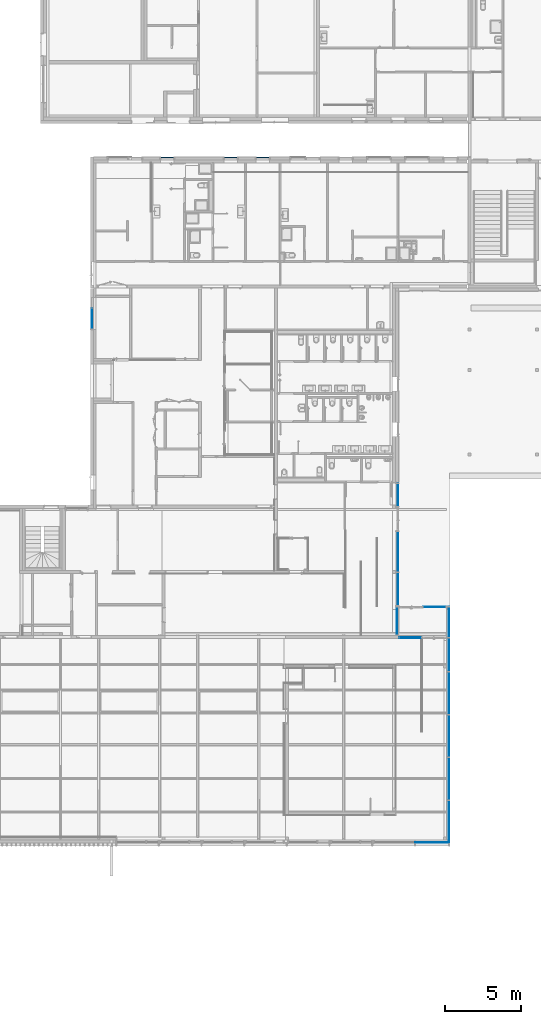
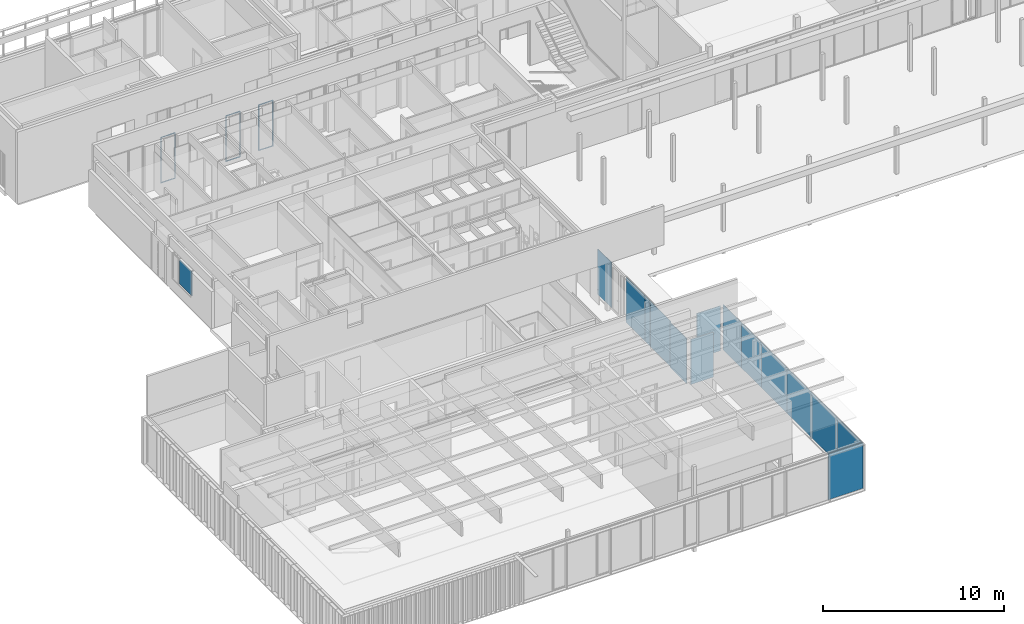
# One storey, part 60 of 240: 18 plates, 11 elements without a shape of their own.
"""IFC2X3 building model written with IfcOpenShell, lengths in centimetres."""

from ifc_helpers import new_model, entity, si_unit, converted_unit, derived_unit, direction, frame, origin, origin_2d_with_axis, place, context, subcontext, project, spatial, polyline, rectangle, outline, extrude, source, transform, mapped, material, layer, layer_set, layer_usage, type_object, type_shapes, element, aggregate, save


model = new_model("IFC2X3")

# Units and contexts
model_context = context("Model", 3, precision=0.001, world=origin(), true_north=direction((6.12303176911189e-17, 1.0)))
body_context = subcontext(model_context, "Body", "Model", "MODEL_VIEW")
ifc_project = project(units=[si_unit("LENGTHUNIT", "METRE", prefix="CENTI"), si_unit("AREAUNIT", "SQUARE_METRE"), si_unit("VOLUMEUNIT", "CUBIC_METRE"), converted_unit("PLANEANGLEUNIT", "DEGREE", entity("IfcRatioMeasure", 0.0174532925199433), si_unit("PLANEANGLEUNIT", "RADIAN"), dimensions=[0, 0, 0, 0, 0, 0, 0]), si_unit("MASSUNIT", "GRAM", prefix="KILO"), derived_unit("MASSDENSITYUNIT", [(si_unit("MASSUNIT", "GRAM", prefix="KILO"), 1), (si_unit("LENGTHUNIT", "METRE"), -3)]), si_unit("TIMEUNIT", "SECOND"), si_unit("FREQUENCYUNIT", "HERTZ"), si_unit("THERMODYNAMICTEMPERATUREUNIT", "DEGREE_CELSIUS"), derived_unit("THERMALTRANSMITTANCEUNIT", [(si_unit("MASSUNIT", "GRAM", prefix="KILO"), 1), (si_unit("THERMODYNAMICTEMPERATUREUNIT", "KELVIN"), -1), (si_unit("TIMEUNIT", "SECOND"), -3)]), derived_unit("VOLUMETRICFLOWRATEUNIT", [(si_unit("LENGTHUNIT", "METRE"), 3), (si_unit("TIMEUNIT", "SECOND"), -1)]), si_unit("ELECTRICCURRENTUNIT", "AMPERE"), si_unit("ELECTRICVOLTAGEUNIT", "VOLT"), si_unit("POWERUNIT", "WATT"), si_unit("FORCEUNIT", "NEWTON", prefix="KILO"), si_unit("ILLUMINANCEUNIT", "LUX"), si_unit("LUMINOUSFLUXUNIT", "LUMEN"), si_unit("LUMINOUSINTENSITYUNIT", "CANDELA"), derived_unit("USERDEFINED", [(si_unit("MASSUNIT", "GRAM", prefix="KILO"), -1), (si_unit("LENGTHUNIT", "METRE"), -2), (si_unit("TIMEUNIT", "SECOND"), 3), (si_unit("LUMINOUSFLUXUNIT", "LUMEN"), 1)]), derived_unit("LINEARVELOCITYUNIT", [(si_unit("LENGTHUNIT", "METRE"), 1), (si_unit("TIMEUNIT", "SECOND"), -1)]), si_unit("PRESSUREUNIT", "PASCAL"), derived_unit("USERDEFINED", [(si_unit("LENGTHUNIT", "METRE"), -2), (si_unit("MASSUNIT", "GRAM", prefix="KILO"), 1), (si_unit("TIMEUNIT", "SECOND"), -2)])], contexts=[model_context])

# Site, building, storey
site_placement = place(None, frame((-2781.94577612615, 7442.24238424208, 0.0)))
site = spatial("IfcSite", under=ifc_project, at=site_placement, Name="Default", CompositionType="ELEMENT")
building_placement = place(site_placement, origin())
building = spatial("IfcBuilding", under=site, at=building_placement, CompositionType="ELEMENT")
storey_placement = place(building_placement, origin())
storey = spatial("IfcBuildingStorey", under=building, at=storey_placement, Name="N00 - COO", CompositionType="ELEMENT", Elevation=0.0)

# Curtain wall, plate
curtain_wall_type_1 = type_object("IfcCurtainWallType", Name="Mur-rideau:07 - Mur rideau meneaux 180", PredefinedType="NOTDEFINED")
curtain_wall_1_placement = place(building_placement, origin())
curtain_wall_1 = element("IfcCurtainWall", 1, at=curtain_wall_1_placement, inside=storey, type_object=curtain_wall_type_1, Name="Mur-rideau:07 - Mur rideau meneaux 180", ObjectType="Mur-rideau:07 - Mur rideau meneaux 180")
ifc_material = material(Name="Verre")
ifc_layer = layer(ifc_material, 4.0)
ifc_layer_set = layer_set([ifc_layer], Name="Panneau système:Vitré")
ifc_layer_usage_1 = layer_usage(ifc_layer_set, "AXIS3", "POSITIVE", 0.0)
plate_type_1 = type_object("IfcPlateType", Name="Vitré", PredefinedType="CURTAIN_PANEL", material=ifc_layer_set)
shared_shape_1 = source(origin(), body_context, "Body", "SweptSolid", [
    extrude(rectangle(XDim=4.0, YDim=134.0, at=origin_2d_with_axis()), frame((0.0, 0.0, 0.0), z_axis=(0.0, 0.0, 1.0), x_axis=(0.0, 1.0, 0.0)), (0.0, 0.0, 1.0), 165.0),
])
type_shapes(plate_type_1, [shared_shape_1])
plate_1_placement = place(curtain_wall_1_placement, frame((-10892.6130476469, -2130.07903364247, 80.0), z_axis=(0.0, 0.0, 1.0), x_axis=(0.0, -1.0, 0.0)))
plate_1 = element("IfcPlate", 2, at=plate_1_placement, type_object=plate_type_1, material=ifc_layer_usage_1, Name="Panneau système:Vitré", ObjectType="Panneau système:Vitré", context=body_context, shape_type="MappedRepresentation", body=[
    mapped(shared_shape_1, transform((0.0, 0.0, 0.0), scale=1.0)),
])
aggregate(curtain_wall_1, [plate_1])

curtain_wall_type_2 = type_object("IfcCurtainWallType", PredefinedType="NOTDEFINED")
curtain_wall_2_placement = place(building_placement, origin())
curtain_wall_2 = element("IfcCurtainWall", 3, at=curtain_wall_2_placement, inside=storey, type_object=curtain_wall_type_2)
ifc_layer_usage_2 = layer_usage(ifc_layer_set, "AXIS3", "POSITIVE", 0.0)
plate_type_2 = type_object("IfcPlateType", Name="Vitré", PredefinedType="CURTAIN_PANEL", material=ifc_layer_set)
shared_shape_2 = source(origin(), body_context, "Body", "SweptSolid", [
    extrude(rectangle(XDim=4.0, YDim=143.499999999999, at=origin_2d_with_axis()), frame((0.0, 0.0, 0.0), z_axis=(0.0, 0.0, 1.0), x_axis=(0.0, 1.0, 0.0)), (0.0, 0.0, 1.0), 303.000000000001),
])
type_shapes(plate_type_2, [shared_shape_2])
plate_2_placement = place(curtain_wall_2_placement, frame((-8805.23738089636, -4220.50027342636, 5.0)))
plate_2 = element("IfcPlate", 4, at=plate_2_placement, type_object=plate_type_2, material=ifc_layer_usage_2, Name="Panneau système:Vitré", ObjectType="Panneau système:Vitré", context=body_context, shape_type="MappedRepresentation", body=[
    mapped(shared_shape_2, transform((0.0, 0.0, 0.0), scale=1.0)),
])
aggregate(curtain_wall_2, [plate_2])

curtain_wall_type_3 = type_object("IfcCurtainWallType", PredefinedType="NOTDEFINED")
curtain_wall_3_placement = place(building_placement, origin())
curtain_wall_3 = element("IfcCurtainWall", 5, at=curtain_wall_3_placement, inside=storey, type_object=curtain_wall_type_3)
ifc_layer_usage_3 = layer_usage(ifc_layer_set, "AXIS3", "POSITIVE", 0.0)
plate_type_3 = type_object("IfcPlateType", Name="Vitré", PredefinedType="CURTAIN_PANEL", material=ifc_layer_set)
shared_shape_3 = source(origin(), body_context, "Body", "SweptSolid", [
    extrude(rectangle(XDim=4.0, YDim=180.221239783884, at=origin_2d_with_axis()), frame((0.0, 0.0, 0.0), z_axis=(0.0, 0.0, 1.0), x_axis=(0.0, 1.0, 0.0)), (0.0, 0.0, 1.0), 303.0),
])
type_shapes(plate_type_3, [shared_shape_3])
plate_3_placement = place(curtain_wall_3_placement, frame((-8891.98738089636, -4110.38965353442, 5.0), z_axis=(0.0, 0.0, 1.0), x_axis=(0.0, 1.0, 0.0)))
plate_3 = element("IfcPlate", 6, at=plate_3_placement, type_object=plate_type_3, material=ifc_layer_usage_3, Name="Panneau système:Vitré", ObjectType="Panneau système:Vitré", context=body_context, shape_type="MappedRepresentation", body=[
    mapped(shared_shape_3, transform((0.0, 0.0, 0.0), scale=1.0)),
])
aggregate(curtain_wall_3, [plate_3])

curtain_wall_type_4 = type_object("IfcCurtainWallType", Name="Mur-rideau:07 - mur rideau trame 280 cm", PredefinedType="NOTDEFINED")
curtain_wall_4_placement = place(building_placement, origin())
curtain_wall_4 = element("IfcCurtainWall", 7, at=curtain_wall_4_placement, inside=storey, type_object=curtain_wall_type_4, Name="Mur-rideau:07 - mur rideau trame 280 cm", ObjectType="Mur-rideau:07 - mur rideau trame 280 cm")
ifc_layer_usage_4 = layer_usage(ifc_layer_set, "AXIS3", "POSITIVE", 0.0)
plate_type_4 = type_object("IfcPlateType", Name="Vitré", PredefinedType="CURTAIN_PANEL", material=ifc_layer_set)
shared_shape_4 = source(origin(), body_context, "Body", "SweptSolid", [
    extrude(rectangle(XDim=4.0, YDim=220.12936520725, at=origin_2d_with_axis()), frame((0.0, 0.0, 0.0), z_axis=(0.0, 0.0, 1.0), x_axis=(0.0, 1.0, 0.0)), (0.0, 0.0, 1.0), 311.27110145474),
])
type_shapes(plate_type_4, [shared_shape_4])
plate_4_placement = place(curtain_wall_4_placement, frame((-8664.75206350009, -5562.80173441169, 4.11874999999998)))
plate_4 = element("IfcPlate", 8, at=plate_4_placement, type_object=plate_type_4, material=ifc_layer_usage_4, Name="Panneau système:Vitré", ObjectType="Panneau système:Vitré", context=body_context, shape_type="MappedRepresentation", body=[
    mapped(shared_shape_4, transform((0.0, 0.0, 0.0), scale=1.0)),
])
aggregate(curtain_wall_4, [plate_4])

# Curtain wall, plates
curtain_wall_5_placement = place(building_placement, origin())
curtain_wall_5 = element("IfcCurtainWall", 9, at=curtain_wall_5_placement, inside=storey, type_object=curtain_wall_type_4, Name="Mur-rideau:07 - mur rideau trame 280 cm", ObjectType="Mur-rideau:07 - mur rideau trame 280 cm")
ifc_layer_usage_5 = layer_usage(ifc_layer_set, "AXIS3", "POSITIVE", 0.0)
plate_type_5 = type_object("IfcPlateType", Name="Vitré", PredefinedType="CURTAIN_PANEL", material=ifc_layer_set)
shared_shape_5 = source(origin(), body_context, "Body", "SweptSolid", [
    extrude(rectangle(XDim=4.0, YDim=279.131250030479, at=origin_2d_with_axis()), frame((0.0, 0.0, 0.0), z_axis=(0.0, 0.0, 1.0), x_axis=(0.0, 1.0, 0.0)), (0.0, 0.0, 1.0), 304.7625),
])
type_shapes(plate_type_5, [shared_shape_5])
plate_5_placement = place(curtain_wall_5_placement, frame((-8552.68738089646, -5425.23610939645, 4.11874999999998), z_axis=(0.0, 0.0, 1.0), x_axis=(0.0, 1.0, 0.0)))
plate_5 = element("IfcPlate", 10, at=plate_5_placement, type_object=plate_type_5, material=ifc_layer_usage_5, Name="Panneau système:Vitré", ObjectType="Panneau système:Vitré", context=body_context, shape_type="MappedRepresentation", body=[
    mapped(shared_shape_5, transform((0.0, 0.0, 0.0), scale=1.0)),
])
ifc_layer_usage_6 = layer_usage(ifc_layer_set, "AXIS3", "POSITIVE", 0.0)
plate_type_6 = type_object("IfcPlateType", Name="Vitré", PredefinedType="CURTAIN_PANEL", material=ifc_layer_set)
shared_shape_6 = source(origin(), body_context, "Body", "SweptSolid", [
    extrude(rectangle(XDim=4.0, YDim=278.2625, at=origin_2d_with_axis()), frame((0.0, 0.0, 0.0), z_axis=(0.0, 0.0, 1.0), x_axis=(0.0, 1.0, 0.0)), (0.0, 0.0, 1.0), 304.7625),
])
type_shapes(plate_type_6, [shared_shape_6])
plate_6_placement = place(curtain_wall_5_placement, frame((-8552.68738089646, -5144.80173438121, 4.11874999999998), z_axis=(0.0, 0.0, 1.0), x_axis=(0.0, 1.0, 0.0)))
plate_6 = element("IfcPlate", 11, at=plate_6_placement, type_object=plate_type_6, material=ifc_layer_usage_6, Name="Panneau système:Vitré", ObjectType="Panneau système:Vitré", context=body_context, shape_type="MappedRepresentation", body=[
    mapped(shared_shape_6, transform((0.0, 0.0, 0.0), scale=1.0)),
])
ifc_layer_usage_7 = layer_usage(ifc_layer_set, "AXIS3", "POSITIVE", 0.0)
plate_7_placement = place(curtain_wall_5_placement, frame((-8552.68738089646, -4864.80173438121, 4.11874999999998), z_axis=(0.0, 0.0, 1.0), x_axis=(0.0, 1.0, 0.0)))
plate_7 = element("IfcPlate", 12, at=plate_7_placement, type_object=plate_type_6, material=ifc_layer_usage_7, Name="Panneau système:Vitré", ObjectType="Panneau système:Vitré", context=body_context, shape_type="MappedRepresentation", body=[
    mapped(shared_shape_6, transform((0.0, 0.0, 0.0), scale=1.0)),
])
ifc_layer_usage_8 = layer_usage(ifc_layer_set, "AXIS3", "POSITIVE", 0.0)
plate_8_placement = place(curtain_wall_5_placement, frame((-8552.68738089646, -4584.80173438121, 4.11874999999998), z_axis=(0.0, 0.0, 1.0), x_axis=(0.0, 1.0, 0.0)))
plate_8 = element("IfcPlate", 13, at=plate_8_placement, type_object=plate_type_6, material=ifc_layer_usage_8, Name="Panneau système:Vitré", ObjectType="Panneau système:Vitré", context=body_context, shape_type="MappedRepresentation", body=[
    mapped(shared_shape_6, transform((0.0, 0.0, 0.0), scale=1.0)),
])
ifc_layer_usage_9 = layer_usage(ifc_layer_set, "AXIS3", "POSITIVE", 0.0)
plate_type_7 = type_object("IfcPlateType", Name="Vitré", PredefinedType="CURTAIN_PANEL", material=ifc_layer_set)
shared_shape_7 = source(origin(), body_context, "Body", "SweptSolid", [
    extrude(rectangle(XDim=4.0, YDim=220.813960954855, at=origin_2d_with_axis()), frame((0.0, 0.0, 0.0), z_axis=(0.0, 0.0, 1.0), x_axis=(0.0, 1.0, 0.0)), (0.0, 0.0, 1.0), 304.7625),
])
type_shapes(plate_type_7, [shared_shape_7])
plate_9_placement = place(curtain_wall_5_placement, frame((-8552.68738089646, -4333.52600390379, 4.11874999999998), z_axis=(0.0, 0.0, 1.0), x_axis=(0.0, 1.0, 0.0)))
plate_9 = element("IfcPlate", 14, at=plate_9_placement, type_object=plate_type_7, material=ifc_layer_usage_9, Name="Panneau système:Vitré", ObjectType="Panneau système:Vitré", context=body_context, shape_type="MappedRepresentation", body=[
    mapped(shared_shape_7, transform((0.0, 0.0, 0.0), scale=1.0)),
])
ifc_layer_usage_10 = layer_usage(ifc_layer_set, "AXIS3", "POSITIVE", 0.0)
plate_type_8 = type_object("IfcPlateType", Name="Vitré", PredefinedType="CURTAIN_PANEL", material=ifc_layer_set)
shared_shape_8 = source(origin(), body_context, "Body", "SweptSolid", [
    extrude(rectangle(XDim=4.0, YDim=202.183739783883, at=origin_2d_with_axis()), frame((0.0, 0.0, 0.0), z_axis=(0.0, 0.0, 1.0), x_axis=(0.0, 1.0, 0.0)), (0.0, 0.0, 1.0), 304.7625),
])
type_shapes(plate_type_8, [shared_shape_8])
plate_10_placement = place(curtain_wall_5_placement, frame((-8552.68738089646, -4120.28965353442, 4.11874999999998), z_axis=(0.0, 0.0, 1.0), x_axis=(0.0, 1.0, 0.0)))
plate_10 = element("IfcPlate", 15, at=plate_10_placement, type_object=plate_type_8, material=ifc_layer_usage_10, Name="Panneau système:Vitré", ObjectType="Panneau système:Vitré", context=body_context, shape_type="MappedRepresentation", body=[
    mapped(shared_shape_8, transform((0.0, 0.0, 0.0), scale=1.0)),
])
aggregate(curtain_wall_5, [plate_5, plate_6, plate_7, plate_8, plate_9, plate_10])

curtain_wall_6_placement = place(building_placement, origin())
curtain_wall_6 = element("IfcCurtainWall", 16, at=curtain_wall_6_placement, inside=storey, type_object=curtain_wall_type_4, Name="Mur-rideau:07 - mur rideau trame 280 cm", ObjectType="Mur-rideau:07 - mur rideau trame 280 cm")
ifc_layer_usage_11 = layer_usage(ifc_layer_set, "AXIS3", "POSITIVE", 0.0)
plate_type_9 = type_object("IfcPlateType", Name="Vitré", PredefinedType="CURTAIN_PANEL", material=ifc_layer_set)
shared_shape_9 = source(origin(), body_context, "Body", "SweptSolid", [
    extrude(rectangle(XDim=4.0, YDim=219.37187249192, at=origin_2d_with_axis()), frame((0.0, 0.0, 0.0), z_axis=(0.0, 0.0, 1.0), x_axis=(0.0, 1.0, 0.0)), (0.0, 0.0, 1.0), 304.7625),
])
type_shapes(plate_type_9, [shared_shape_9])
plate_11_placement = place(curtain_wall_6_placement, frame((-8885.63218005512, -3901.27434739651, 4.11874999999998), z_axis=(0.0, 0.0, 1.0), x_axis=(0.0, 1.0, 0.0)))
plate_11 = element("IfcPlate", 17, at=plate_11_placement, type_object=plate_type_9, material=ifc_layer_usage_11, Name="Panneau système:Vitré", ObjectType="Panneau système:Vitré", context=body_context, shape_type="MappedRepresentation", body=[
    mapped(shared_shape_9, transform((0.0, 0.0, 0.0), scale=1.0)),
])
ifc_layer_usage_12 = layer_usage(ifc_layer_set, "AXIS3", "POSITIVE", 0.0)
plate_type_10 = type_object("IfcPlateType", Name="Vitré", PredefinedType="CURTAIN_PANEL", material=ifc_layer_set)
shared_shape_10 = source(origin(), body_context, "Body", "SweptSolid", [
    extrude(rectangle(XDim=4.0, YDim=54.7718775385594, at=origin_2d_with_axis()), frame((0.0, 0.0, 0.0), z_axis=(0.0, 0.0, 1.0), x_axis=(0.0, 1.0, 0.0)), (0.0, 0.0, 1.0), 304.7625),
])
type_shapes(plate_type_10, [shared_shape_10])
plate_12_placement = place(curtain_wall_6_placement, frame((-8885.63218005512, -3762.46497238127, 4.11874999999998), z_axis=(0.0, 0.0, 1.0), x_axis=(0.0, 1.0, 0.0)))
plate_12 = element("IfcPlate", 18, at=plate_12_placement, type_object=plate_type_10, material=ifc_layer_usage_12, Name="Panneau système:Vitré", ObjectType="Panneau système:Vitré", context=body_context, shape_type="MappedRepresentation", body=[
    mapped(shared_shape_10, transform((0.0, 0.0, 0.0), scale=1.0)),
])
ifc_layer_usage_13 = layer_usage(ifc_layer_set, "AXIS3", "POSITIVE", 0.0)
plate_type_11 = type_object("IfcPlateType", Name="Vitré", PredefinedType="CURTAIN_PANEL", material=ifc_layer_set)
shared_shape_11 = source(origin(), body_context, "Body", "SweptSolid", [
    extrude(rectangle(XDim=4.0, YDim=209.88124996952, at=origin_2d_with_axis()), frame((0.0, 0.0, 0.0), z_axis=(0.0, 0.0, 1.0), x_axis=(0.0, 1.0, 0.0)), (0.0, 0.0, 1.0), 304.7625),
])
type_shapes(plate_type_11, [shared_shape_11])
plate_13_placement = place(curtain_wall_6_placement, frame((-8885.63218005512, -3630.13840862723, 4.11874999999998), z_axis=(0.0, 0.0, 1.0), x_axis=(0.0, 1.0, 0.0)))
plate_13 = element("IfcPlate", 19, at=plate_13_placement, type_object=plate_type_11, material=ifc_layer_usage_13, Name="Panneau système:Vitré", ObjectType="Panneau système:Vitré", context=body_context, shape_type="MappedRepresentation", body=[
    mapped(shared_shape_11, transform((0.0, 0.0, 0.0), scale=1.0)),
])
aggregate(curtain_wall_6, [plate_11, plate_12, plate_13])

# Curtain wall, plate
curtain_wall_type_5 = type_object("IfcCurtainWallType", Name="Mur-rideau:07 - mur rideau trame 100cm", PredefinedType="NOTDEFINED")
curtain_wall_7_placement = place(storey_placement, origin())
curtain_wall_7 = element("IfcCurtainWall", 20, at=curtain_wall_7_placement, inside=storey, type_object=curtain_wall_type_5, Name="Mur-rideau:07 - mur rideau trame 100cm", ObjectType="Mur-rideau:07 - mur rideau trame 100cm")
ifc_layer_usage_14 = layer_usage(ifc_layer_set, "AXIS3", "POSITIVE", 0.0)
plate_type_12 = type_object("IfcPlateType", Name="Vitré", PredefinedType="CURTAIN_PANEL", material=ifc_layer_set)
shared_shape_12 = source(origin(), body_context, "Body", "SweptSolid", [
    extrude(outline(polyline([(-154.190625, -45.8812499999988), (154.190625, -45.8812499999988), (154.190625, 45.8812499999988), (-154.190625, 45.8812499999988), (-154.190625, -45.8812499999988)]), holes=[polyline([(-151.809375, 43.5000000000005), (151.809375, 43.5000000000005), (151.809375, -43.4999999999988), (-151.809375, -43.4999999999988), (-151.809375, 43.5000000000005)])]), frame((0.0, -2.0, 154.190625), z_axis=(0.0, 1.0, 0.0), x_axis=(0.0, 0.0, 1.0)), (0.0, 0.0, 1.0), 4.0),
])
type_shapes(plate_type_12, [shared_shape_12])
plate_14_placement = place(curtain_wall_7_placement, frame((-9772.99987766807, -1073.69999990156, 4.11874999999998)))
plate_14 = element("IfcPlate", 21, at=plate_14_placement, type_object=plate_type_12, material=ifc_layer_usage_14, Name="Panneau système:Vitré", ObjectType="Panneau système:Vitré", context=body_context, shape_type="MappedRepresentation", body=[
    mapped(shared_shape_12, transform((0.0, 0.0, 0.0), scale=1.0)),
])
aggregate(curtain_wall_7, [plate_14])

curtain_wall_8_placement = place(storey_placement, origin())
curtain_wall_8 = element("IfcCurtainWall", 22, at=curtain_wall_8_placement, inside=storey, type_object=curtain_wall_type_5, Name="Mur-rideau:07 - mur rideau trame 100cm", ObjectType="Mur-rideau:07 - mur rideau trame 100cm")
ifc_layer_usage_15 = layer_usage(ifc_layer_set, "AXIS3", "POSITIVE", 0.0)
plate_15_placement = place(curtain_wall_8_placement, frame((-9982.99987766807, -1073.69999990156, 4.11874999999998)))
plate_15 = element("IfcPlate", 23, at=plate_15_placement, type_object=plate_type_12, material=ifc_layer_usage_15, Name="Panneau système:Vitré", ObjectType="Panneau système:Vitré", context=body_context, shape_type="MappedRepresentation", body=[
    mapped(shared_shape_12, transform((0.0, 0.0, 0.0), scale=1.0)),
])
aggregate(curtain_wall_8, [plate_15])

curtain_wall_9_placement = place(storey_placement, origin())
curtain_wall_9 = element("IfcCurtainWall", 24, at=curtain_wall_9_placement, inside=storey, type_object=curtain_wall_type_5, Name="Mur-rideau:07 - mur rideau trame 100cm", ObjectType="Mur-rideau:07 - mur rideau trame 100cm")
ifc_layer_usage_16 = layer_usage(ifc_layer_set, "AXIS3", "POSITIVE", 0.0)
plate_16_placement = place(curtain_wall_9_placement, frame((-10397.9998776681, -1073.69999990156, 4.11874999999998)))
plate_16 = element("IfcPlate", 25, at=plate_16_placement, type_object=plate_type_12, material=ifc_layer_usage_16, Name="Panneau système:Vitré", ObjectType="Panneau système:Vitré", context=body_context, shape_type="MappedRepresentation", body=[
    mapped(shared_shape_12, transform((0.0, 0.0, 0.0), scale=1.0)),
])
aggregate(curtain_wall_9, [plate_16])

curtain_wall_10_placement = place(building_placement, origin())
curtain_wall_10 = element("IfcCurtainWall", 26, at=curtain_wall_10_placement, inside=storey, type_object=curtain_wall_type_4, Name="Mur-rideau:07 - mur rideau trame 280 cm", ObjectType="Mur-rideau:07 - mur rideau trame 280 cm")
ifc_layer_usage_17 = layer_usage(ifc_layer_set, "AXIS3", "POSITIVE", 0.0)
plate_type_13 = type_object("IfcPlateType", Name="Vitré", PredefinedType="CURTAIN_PANEL", material=ifc_layer_set)
shared_shape_13 = source(origin(), body_context, "Body", "SweptSolid", [
    extrude(rectangle(XDim=4.0, YDim=152.455272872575, at=origin_2d_with_axis()), frame((0.0, 0.0, 0.0), z_axis=(0.0, 0.0, 1.0), x_axis=(0.0, 1.0, 0.0)), (0.0, 0.0, 1.0), 304.762500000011),
])
type_shapes(plate_type_13, [shared_shape_13])
plate_17_placement = place(curtain_wall_10_placement, frame((-8885.63218005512, -3285.42542007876, 4.11874999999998), z_axis=(0.0, 0.0, 1.0), x_axis=(0.0, -1.0, 0.0)))
plate_17 = element("IfcPlate", 27, at=plate_17_placement, type_object=plate_type_13, material=ifc_layer_usage_17, Name="Panneau système:Vitré", ObjectType="Panneau système:Vitré", context=body_context, shape_type="MappedRepresentation", body=[
    mapped(shared_shape_13, transform((0.0, 0.0, 0.0), scale=1.0)),
])
aggregate(curtain_wall_10, [plate_17])

curtain_wall_11_placement = place(storey_placement, origin())
curtain_wall_11 = element("IfcCurtainWall", 28, at=curtain_wall_11_placement, inside=storey, type_object=curtain_wall_type_2)
ifc_layer_usage_18 = layer_usage(ifc_layer_set, "AXIS3", "POSITIVE", 0.0)
plate_type_14 = type_object("IfcPlateType", Name="Vitré", PredefinedType="CURTAIN_PANEL", material=ifc_layer_set)
shared_shape_14 = source(origin(), body_context, "Body", "SweptSolid", [
    extrude(rectangle(XDim=4.0, YDim=148.944799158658, at=origin_2d_with_axis()), frame((0.0, 0.0, 0.0), z_axis=(0.0, 0.0, 1.0), x_axis=(0.0, 1.0, 0.0)), (0.0, 0.0, 1.0), 303.000000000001),
])
type_shapes(plate_type_14, [shared_shape_14])
plate_18_placement = place(curtain_wall_11_placement, frame((-8647.45978047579, -4020.07903364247, 5.0)))
plate_18 = element("IfcPlate", 29, at=plate_18_placement, type_object=plate_type_14, material=ifc_layer_usage_18, Name="Panneau système:Vitré", ObjectType="Panneau système:Vitré", context=body_context, shape_type="MappedRepresentation", body=[
    mapped(shared_shape_14, transform((0.0, 0.0, 0.0), scale=1.0)),
])
aggregate(curtain_wall_11, [plate_18])

save(model, "model.ifc")
